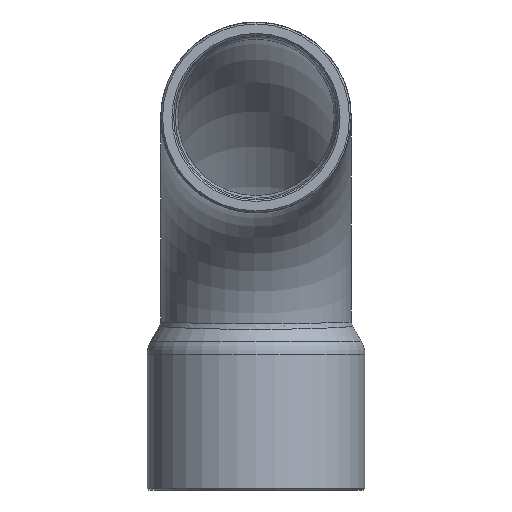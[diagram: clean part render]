
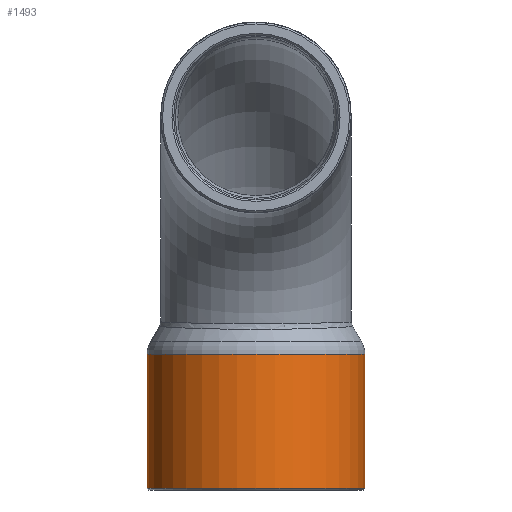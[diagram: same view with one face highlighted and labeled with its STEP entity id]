
A CAD part, front view. The second image highlights one B-rep face of the part: STEP entity #1493.
In plain terms, the highlighted cylindrical face has radius 12.688 mm (diameter 25.375 mm), a full revolution.
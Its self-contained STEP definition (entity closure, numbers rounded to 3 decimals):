
#1462=CARTESIAN_POINT('',(0.,39.388,-0.902));
#1463=VERTEX_POINT('',#1462);
#1464=CARTESIAN_POINT('',(0.0,26.7,-0.902));
#1465=DIRECTION('',(0.0,0.0,1.0));
#1466=DIRECTION('',(0.0,-1.0,0.0));
#1467=AXIS2_PLACEMENT_3D('',#1464,#1465,#1466);
#1468=CIRCLE('',#1467,12.688);
#1469=EDGE_CURVE('',#1463,#1463,#1468,.T.);
#1474=CARTESIAN_POINT('',(0.0,26.7,-8.399));
#1475=DIRECTION('',(0.0,0.,-1.0));
#1476=DIRECTION('',(0.0,1.0,0.0));
#1477=AXIS2_PLACEMENT_3D('',#1474,#1475,#1476);
#1478=CYLINDRICAL_SURFACE('',#1477,12.688);
#1479=CARTESIAN_POINT('',(0.,39.387,-16.5));
#1480=VERTEX_POINT('',#1479);
#1481=CARTESIAN_POINT('',(0.0,26.7,-16.5));
#1482=DIRECTION('',(0.0,0.0,-1.0));
#1483=DIRECTION('',(0.0,-1.0,0.0));
#1484=AXIS2_PLACEMENT_3D('',#1481,#1482,#1483);
#1485=CIRCLE('',#1484,12.688);
#1486=EDGE_CURVE('',#1480,#1480,#1485,.T.);
#1487=ORIENTED_EDGE('',*,*,#1486,.F.);
#1488=EDGE_LOOP('',(#1487));
#1489=FACE_OUTER_BOUND('',#1488,.T.);
#1490=ORIENTED_EDGE('',*,*,#1469,.F.);
#1491=EDGE_LOOP('',(#1490));
#1492=FACE_BOUND('',#1491,.T.);
#1493=ADVANCED_FACE('',(#1489,#1492),#1478,.T.);
